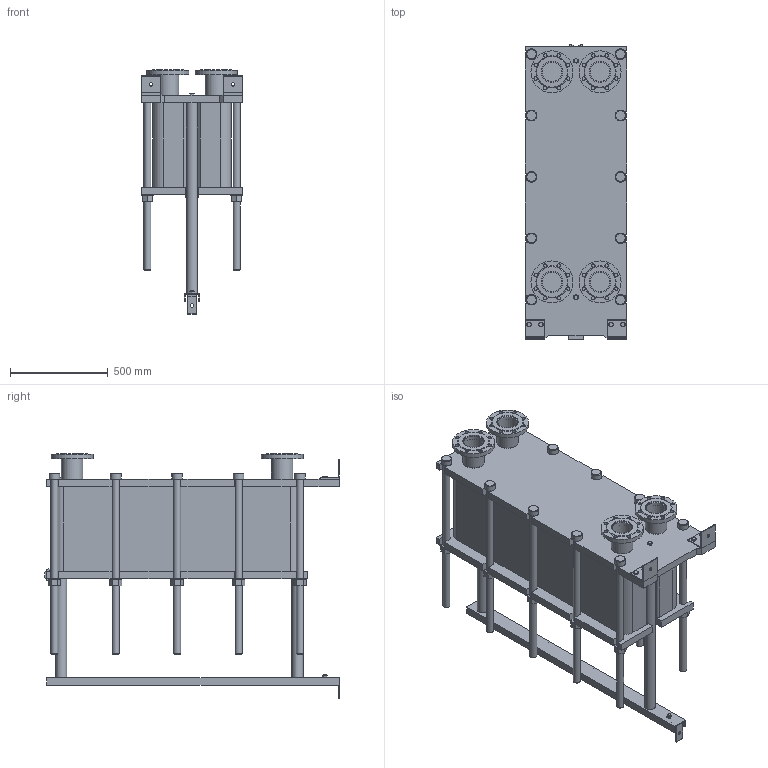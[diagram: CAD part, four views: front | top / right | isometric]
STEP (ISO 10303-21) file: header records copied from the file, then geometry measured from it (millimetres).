
FILE_DESCRIPTION(/* description */ (''),/* implementation_level */ '2;1');
FILE_NAME(/* name */ 'C:\Users\zhuro\Desktop\ENCO\TO\ЭН-04\ЭН-0,5-04-125-1.stp',/* time_stamp */ '2022-06-06T10:56:33+03:00',/* author */ ('zhuro'),/* organization */ (''),/* preprocessor_version */ 'ST-DEVELOPER v18.1',/* originating_system */ 'Autodesk Inventor 2022',/* authorisation */ '');
FILE_SCHEMA (('AUTOMOTIVE_DESIGN { 1 0 10303 214 3 1 1 }'));
Length unit declared in the file: millimetre
Products named in the file (1): ЭН-0,5-04-125-1
Bounding box: 520 x 1510 x 1252.5 mm (x, y, z)
Volume: 288071443 mm3; surface area: 8905014.3 mm2
Topology: 45 solids, 45 shells, 668 faces, 1611 edges, 1048 vertices
Faces by surface type: plane 457, cylinder 166, cone 39, torus 6
Full cylindrical faces by diameter (mm): 8 x4, 10 x2, 16 x8, 18 x35, 36 x25, 40 x2, 42 x1, 45 x4, 54 x10, 57 x2, 60 x10, 68 x2, 100 x4, 110 x8, 215 x4
Entity records: 23607 total; most frequent: CARTESIAN_POINT 7348, DIRECTION 3371, ORIENTED_EDGE 3142, EDGE_CURVE 1571, AXIS2_PLACEMENT_3D 1199, VERTEX_POINT 1044, LINE 973, VECTOR 973
